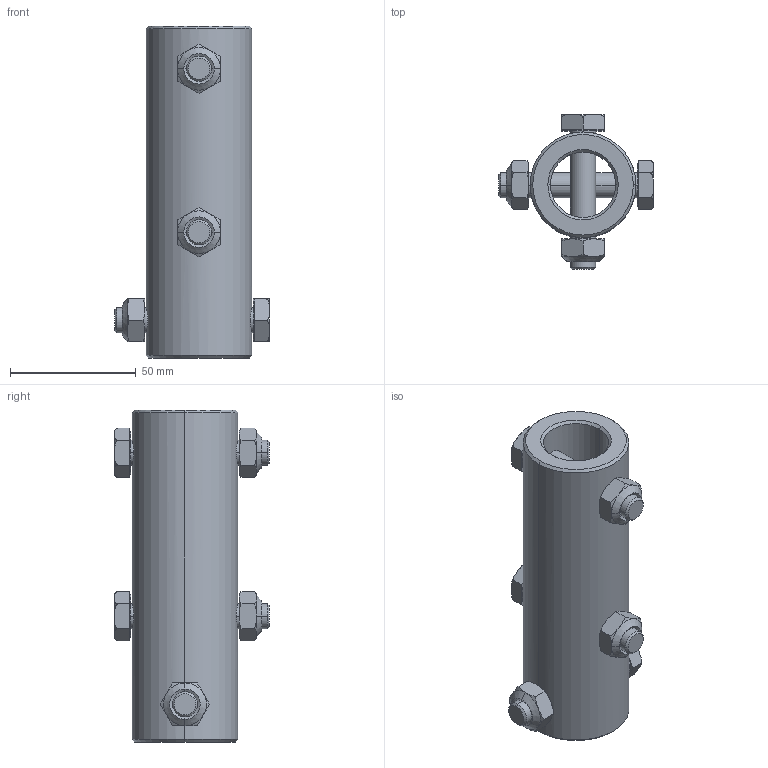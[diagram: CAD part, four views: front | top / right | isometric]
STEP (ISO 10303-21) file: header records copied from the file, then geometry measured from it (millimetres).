
FILE_DESCRIPTION (( 'STEP AP214' ), '1' );
FILE_NAME ('BKS_45.0634_20745.0601.34_STEP_20150213.STEP', '2015-02-13T12:26:28', ( '' ), ( '' ), 'SwSTEP 2.0', 'SolidWorks 2013', '' );
FILE_SCHEMA (( 'AUTOMOTIVE_DESIGN' ));
Length unit declared in the file: millimetre
Products named in the file (1): BKS_45.0634_20745.0601.34_STEP_20150213
Bounding box: 61.4 x 61.4 x 132 mm (x, y, z)
Volume: 90897 mm3; surface area: 43039.9 mm2
Topology: 7 solids, 7 shells, 186 faces, 406 edges, 230 vertices
Faces by surface type: plane 68, cone 64, cylinder 36, torus 18
Entity records: 8774 total; most frequent: CARTESIAN_POINT 2739, ORIENTED_EDGE 812, DIRECTION 782, EDGE_CURVE 406, AXIS2_PLACEMENT_3D 321, VERTEX_POINT 230, EDGE_LOOP 202, UNCERTAINTY_MEASURE_WITH_UNIT 195
